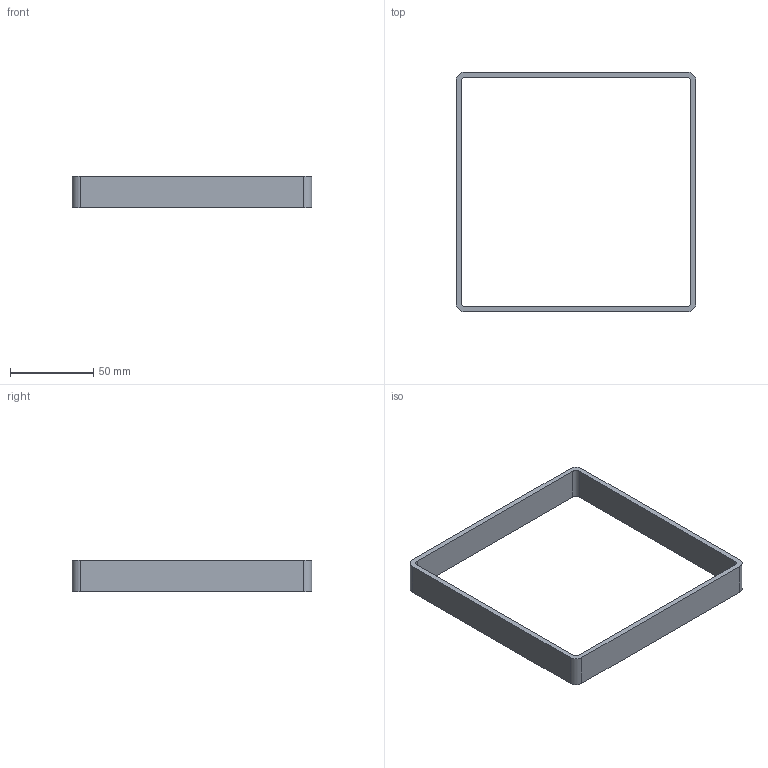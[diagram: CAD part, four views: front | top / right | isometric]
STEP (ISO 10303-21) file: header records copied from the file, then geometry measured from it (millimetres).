
FILE_DESCRIPTION(('FreeCAD Model'),'2;1');
FILE_NAME('Open CASCADE Shape Model','2026-10-31T13:49:49',('FreeCAD'),( 'FreeCAD'),'Open CASCADE STEP processor 7.8','FreeCAD','Unknown');
FILE_SCHEMA(('AUTOMOTIVE_DESIGN { 1 0 10303 214 1 1 1 1 }'));
Length unit declared in the file: millimetre
Products named in the file (1): Open CASCADE STEP translator 7.8 13
Bounding box: 144 x 144 x 19 mm (x, y, z)
Volume: 31887 mm3; surface area: 24527.6 mm2
Topology: 1 solids, 1 shells, 18 faces, 48 edges, 32 vertices
Faces by surface type: plane 10, cylinder 8
Entity records: 582 total; most frequent: DIRECTION 102, CARTESIAN_POINT 99, ORIENTED_EDGE 96, EDGE_CURVE 48, AXIS2_PLACEMENT_3D 35, VERTEX_POINT 32, LINE 32, VECTOR 32
